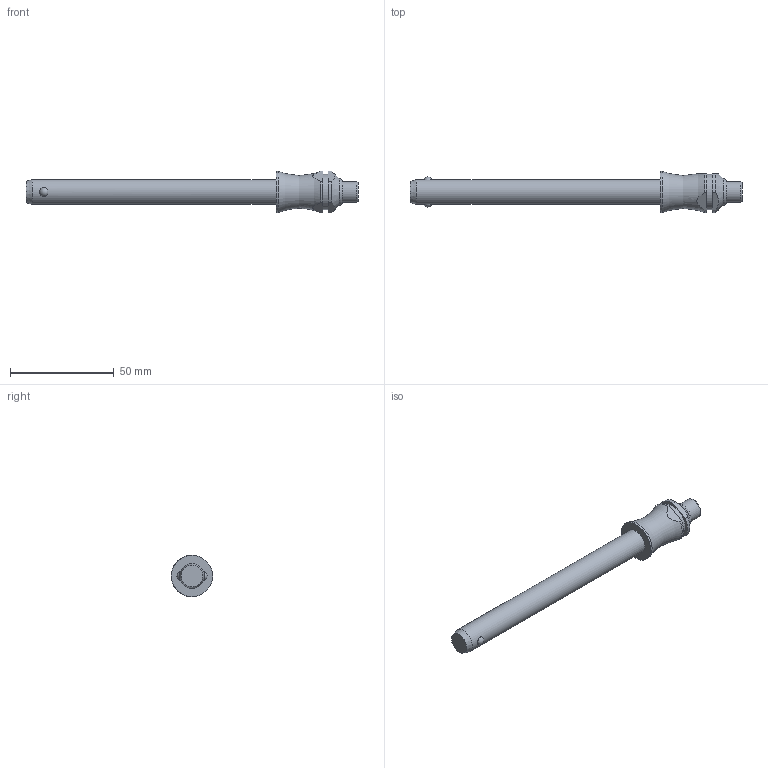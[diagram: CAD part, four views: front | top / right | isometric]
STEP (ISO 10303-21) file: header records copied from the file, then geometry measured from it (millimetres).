
FILE_DESCRIPTION( ( 'STEP AP203' ), '1' );
FILE_NAME( 'C:/Temp/Ganter_Step_05_03_2020/data/3_1/gn113_3/Stainless Steel-Ball lock pin GN 113.3-12-110 (deactivated).stp', '2020-03-12T08:18:49', ( 'License CC BY-ND 4.0' ), ( 'CADENAS' ), ' ', 'PARTsolutions', ' ' );
FILE_SCHEMA( ( 'CONFIG_CONTROL_DESIGN' ) );
Length unit declared in the file: millimetre
Products named in the file (1): _Stainless Steel-Ball lock pin GN 113.3-12-110 (deactivated)
Bounding box: 160.1 x 20 x 20 mm (x, y, z)
Volume: 21578.3 mm3; surface area: 7108.8 mm2
Topology: 1 solids, 1 shells, 28 faces, 60 edges, 39 vertices
Faces by surface type: plane 11, cylinder 10, cone 3, torus 2, sphere 2
Full cylindrical faces by diameter (mm): 10 x1, 12 x1, 17 x1, 20 x1
Entity records: 954 total; most frequent: CARTESIAN_POINT 338, DIRECTION 122, ORIENTED_EDGE 98, AXIS2_PLACEMENT_3D 52, EDGE_CURVE 49, EDGE_LOOP 42, VERTEX_POINT 38, FACE_OUTER_BOUND 34
